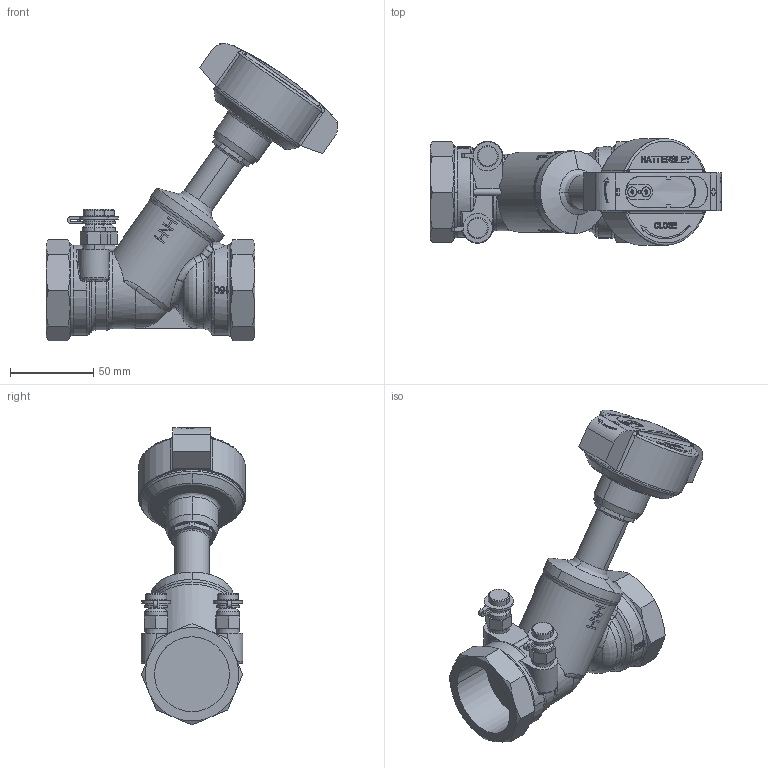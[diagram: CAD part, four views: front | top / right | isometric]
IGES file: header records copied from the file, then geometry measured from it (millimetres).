
Global section: file name: No Iges File Name specified; native system: AutoDesk Inventor R12.0; preprocessor: AutoDesk Inventor Iges Exporter R12.0; date: 20110307.152311; units: millimetre
Bounding box: 174.83 x 63.85 x 178.27 mm (x, y, z)
Volume: 412915.8 mm3; surface area: 59422.5 mm2
Topology: 1 solids, 1 shells, 790 faces, 2045 edges, 1318 vertices
Faces by surface type: plane 345, bspline 257, cylinder 91, cone 58, revolution 23, torus 14, sphere 2
